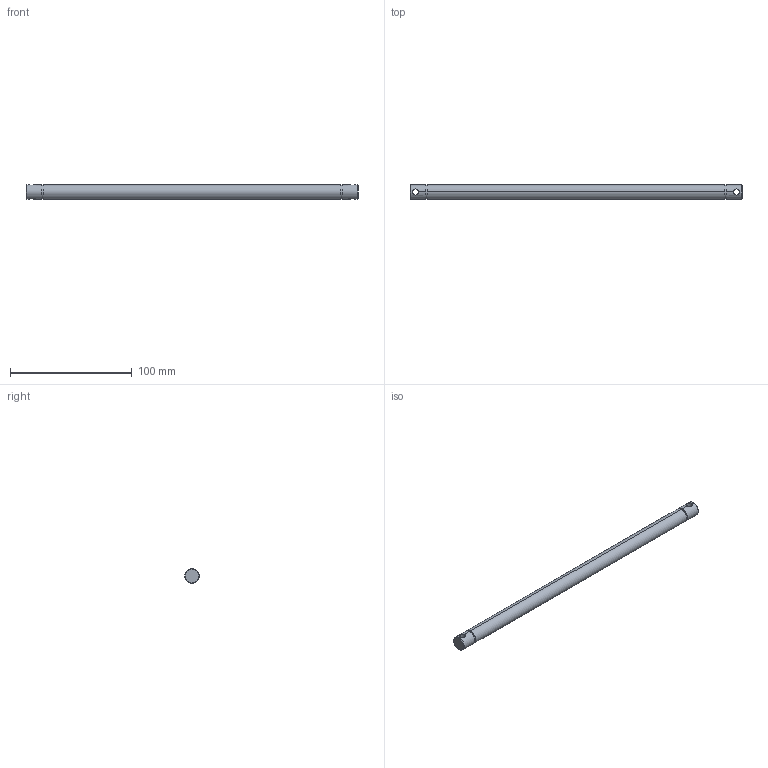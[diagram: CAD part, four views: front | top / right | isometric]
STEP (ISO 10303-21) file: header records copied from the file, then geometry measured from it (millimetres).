
FILE_DESCRIPTION (( 'STEP AP214' ), '1' );
FILE_NAME ('084.030.208.STEP', '2021-02-05T15:52:53', ( '' ), ( '' ), 'SwSTEP 2.0', 'SolidWorks 2018', '' );
FILE_SCHEMA (( 'AUTOMOTIVE_DESIGN' ));
Length unit declared in the file: millimetre
Products named in the file (1): 084.030.208
Bounding box: 273 x 12 x 12 mm (x, y, z)
Volume: 30385.3 mm3; surface area: 10808.5 mm2
Topology: 1 solids, 1 shells, 24 faces, 54 edges, 32 vertices
Faces by surface type: cylinder 14, plane 6, cone 4
Entity records: 976 total; most frequent: CARTESIAN_POINT 351, DIRECTION 120, ORIENTED_EDGE 108, EDGE_CURVE 54, AXIS2_PLACEMENT_3D 49, VERTEX_POINT 32, EDGE_LOOP 28, CIRCLE 24
